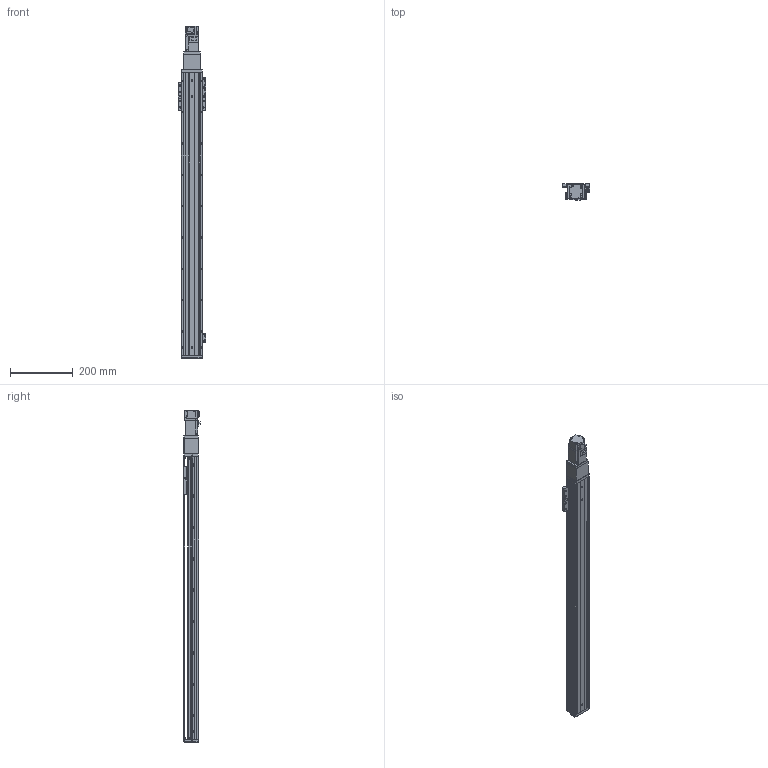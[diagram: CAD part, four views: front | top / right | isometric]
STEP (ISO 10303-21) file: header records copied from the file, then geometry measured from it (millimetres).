
FILE_DESCRIPTION (( 'STEP AP203' ), '1' );
FILE_NAME ('KTHAL60-750-BC-M10-C4L.step', '2022-03-19T08:36:06', ( '微软用户' ), ( '微软中国' ), 'SwSTEP 2.0', 'SolidWorks 2020', '' );
FILE_SCHEMA (( 'CONFIG_CONTROL_DESIGN' ));
Length unit declared in the file: millimetre
Products named in the file (18): CTHA60-021; CTHA60-013; KTHA60-004; GBT 70.1-M4×16; HG-KR13（三菱）; KTHA60-005; GBT77-2000M3-3; KTHAL60-750-BC-M10-C4L; GB¨uT 70.2-M3¡Á5_M3¡Á6; GBT 70.1-M3℅6; GBT 70.3-M3℅6; CTHA60-016; EE_SX911P_R; CTHA60-006-2_CTHA60-006-2; KTHA60-001_900; CTHA60-017; CTHA60-027; KTHLA60-002
Assembly tree (50 placements, depth 2):
  KTHAL60-750-BC-M10-C4L
    KTHA60-001_900
    KTHLA60-002
    KTHA60-004
    KTHA60-005
    GB¨uT 70.2-M3¡Á5_M3¡Á6  x5
    GBT 70.3-M3℅6  x6
    EE_SX911P_R  x3
    CTHA60-017  x3
    CTHA60-021  x2
    GBT 70.1-M4×16  x10
    GBT77-2000M3-3  x6
    GBT 70.1-M3℅6  x6
    CTHA60-016
    CTHA60-006-2_CTHA60-006-2
    CTHA60-027
    CTHA60-013
    HG-KR13（三菱）
Bounding box: 87.82 x 53.3 x 1058.6 mm (x, y, z)
Volume: 1851678.5 mm3; surface area: 477634.1 mm2
Topology: 53 solids, 53 shells, 2260 faces, 5386 edges, 3309 vertices
Faces by surface type: plane 1318, cylinder 543, cone 299, torus 86, sphere 14
Entity records: 38650 total; most frequent: CARTESIAN_POINT 6362, DIRECTION 6240, ORIENTED_EDGE 5976, EDGE_CURVE 2988, LINE 2138, VECTOR 2138, AXIS2_PLACEMENT_3D 2051, VERTEX_POINT 1877
